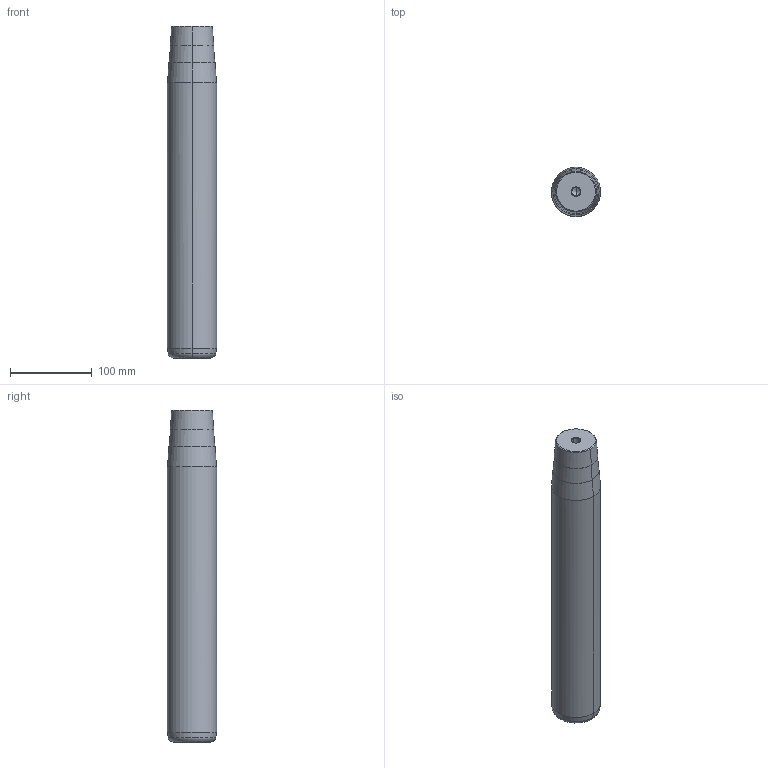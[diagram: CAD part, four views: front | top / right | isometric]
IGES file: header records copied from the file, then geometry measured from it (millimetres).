
Start section: START RECORD GO HERE.
Global section: file name: 722-60x355x406.igs; native system: DASSAULT SYSTEMES CATIA V5 R20 - www.3ds.com; preprocessor: CATIA Version 5 Release 20 ; author: Utente; organization: NB04-ASUS; date: 20210107.202746; units: millimetre
Bounding box: 60 x 60 x 406 mm (x, y, z)
Surface area: 81276.4 mm2 (no closed solid volume)
Topology: 0 solids, 0 shells, 32 faces, 192 edges, 188 vertices
Faces by surface type: revolution 30, plane 2
